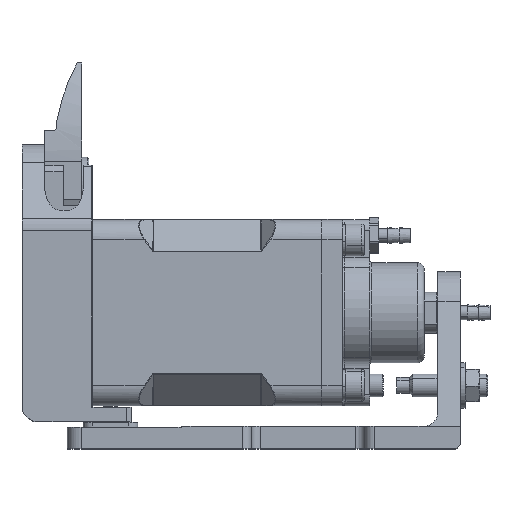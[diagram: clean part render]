
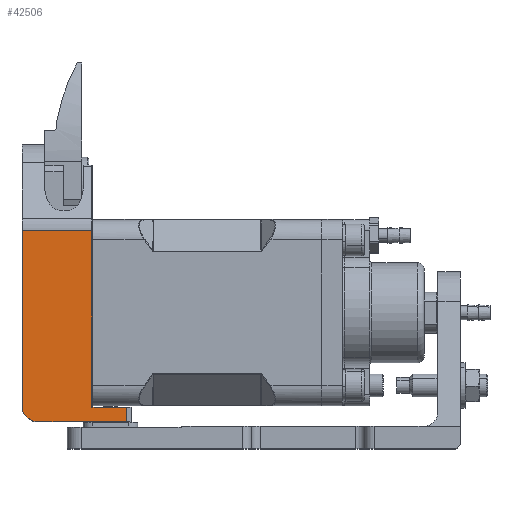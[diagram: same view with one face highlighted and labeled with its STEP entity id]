
A CAD part, top view. The second image highlights one B-rep face of the part: STEP entity #42506.
In plain terms, the highlighted planar face has unit normal (0, 0, 1).
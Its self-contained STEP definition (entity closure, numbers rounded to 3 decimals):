
#636 = VERTEX_POINT ( 'NONE', #21302 ) ;
#1635 = CARTESIAN_POINT ( 'NONE',  ( -28.087, -22.008, 67. ) ) ;
#3275 = DIRECTION ( 'NONE',  ( -1., 0., 0. ) ) ;
#5215 = VECTOR ( 'NONE', #30755, 1000. ) ;
#5781 = ORIENTED_EDGE ( 'NONE', *, *, #78166, .F. ) ;
#5801 = VECTOR ( 'NONE', #67287, 1000. ) ;
#11992 = ORIENTED_EDGE ( 'NONE', *, *, #42369, .F. ) ;
#12613 = CARTESIAN_POINT ( 'NONE',  ( -50.987, -19.338, 67. ) ) ;
#13222 = ORIENTED_EDGE ( 'NONE', *, *, #49479, .T. ) ;
#13633 = DIRECTION ( 'NONE',  ( 0., -1., 0. ) ) ;
#15068 = CARTESIAN_POINT ( 'NONE',  ( -46.087, 21.492, 67. ) ) ;
#16863 = LINE ( 'NONE', #86672, #33365 ) ;
#17996 = LINE ( 'NONE', #49249, #89505 ) ;
#21302 = CARTESIAN_POINT ( 'NONE',  ( -47.587, -22.008, 67. ) ) ;
#22099 = DIRECTION ( 'NONE',  ( 0., 1., 0. ) ) ;
#22417 = ORIENTED_EDGE ( 'NONE', *, *, #25164, .T. ) ;
#24399 = DIRECTION ( 'NONE',  ( 0., 1., 0. ) ) ;
#25164 = EDGE_CURVE ( 'NONE', #67824, #39865, #78195, .T. ) ;
#25169 = CARTESIAN_POINT ( 'NONE',  ( -28.087, 21.492, 67. ) ) ;
#25372 = CARTESIAN_POINT ( 'NONE',  ( -28.087, -18.808, 67. ) ) ;
#27188 = VERTEX_POINT ( 'NONE', #79484 ) ;
#28721 = DIRECTION ( 'NONE',  ( 0., 0., 1. ) ) ;
#28936 = PLANE ( 'NONE',  #75895 ) ;
#29849 = VERTEX_POINT ( 'NONE', #37930 ) ;
#30755 = DIRECTION ( 'NONE',  ( 1., 0., 0. ) ) ;
#33365 = VECTOR ( 'NONE', #65499, 1000. ) ;
#34333 = VERTEX_POINT ( 'NONE', #74454 ) ;
#36004 = EDGE_CURVE ( 'NONE', #29849, #34333, #89468, .T. ) ;
#36490 = EDGE_CURVE ( 'NONE', #34333, #27188, #76122, .T. ) ;
#37930 = CARTESIAN_POINT ( 'NONE',  ( -35.687, -18.808, 67. ) ) ;
#38421 = EDGE_CURVE ( 'NONE', #60526, #636, #53052, .T. ) ;
#39865 = VERTEX_POINT ( 'NONE', #25372 ) ;
#42369 = EDGE_CURVE ( 'NONE', #67824, #636, #16863, .T. ) ;
#42506 = ADVANCED_FACE ( 'NONE', ( #50938 ), #28936, .F. ) ;
#45305 = CARTESIAN_POINT ( 'NONE',  ( -46.087, 19.976, 67. ) ) ;
#45387 = ORIENTED_EDGE ( 'NONE', *, *, #38421, .T. ) ;
#49144 = EDGE_LOOP ( 'NONE', ( #13222, #45387, #11992, #22417, #5781, #84672, #89213 ) ) ;
#49249 = CARTESIAN_POINT ( 'NONE',  ( -50.987, 21.492, 67. ) ) ;
#49479 = EDGE_CURVE ( 'NONE', #27188, #60526, #17996, .T. ) ;
#50014 = VECTOR ( 'NONE', #24399, 1000. ) ;
#50938 = FACE_OUTER_BOUND ( 'NONE', #49144, .T. ) ;
#53052 = CIRCLE ( 'NONE', #56582, 3.5 ) ;
#56582 = AXIS2_PLACEMENT_3D ( 'NONE', #70693, #28721, #77752 ) ;
#57527 = VECTOR ( 'NONE', #3275, 1000. ) ;
#59050 = LINE ( 'NONE', #72744, #5215 ) ;
#60526 = VERTEX_POINT ( 'NONE', #12613 ) ;
#64162 = DIRECTION ( 'NONE',  ( 0., 0., -1. ) ) ;
#65499 = DIRECTION ( 'NONE',  ( -1., 0., 0. ) ) ;
#67287 = DIRECTION ( 'NONE',  ( 0., 1., 0. ) ) ;
#67824 = VERTEX_POINT ( 'NONE', #1635 ) ;
#70693 = CARTESIAN_POINT ( 'NONE',  ( -47.587, -18.508, 67. ) ) ;
#72744 = CARTESIAN_POINT ( 'NONE',  ( -27.087, -18.808, 67. ) ) ;
#73563 = CARTESIAN_POINT ( 'NONE',  ( -35.687, 19.976, 67. ) ) ;
#74454 = CARTESIAN_POINT ( 'NONE',  ( -35.687, 19.976, 67. ) ) ;
#75895 = AXIS2_PLACEMENT_3D ( 'NONE', #15068, #64162, #22099 ) ;
#76122 = LINE ( 'NONE', #45305, #57527 ) ;
#77752 = DIRECTION ( 'NONE',  ( 0., 1., 0. ) ) ;
#78166 = EDGE_CURVE ( 'NONE', #29849, #39865, #59050, .T. ) ;
#78195 = LINE ( 'NONE', #25169, #5801 ) ;
#79484 = CARTESIAN_POINT ( 'NONE',  ( -50.987, 19.976, 67. ) ) ;
#84672 = ORIENTED_EDGE ( 'NONE', *, *, #36004, .T. ) ;
#86672 = CARTESIAN_POINT ( 'NONE',  ( -27.087, -22.008, 67. ) ) ;
#89213 = ORIENTED_EDGE ( 'NONE', *, *, #36490, .T. ) ;
#89468 = LINE ( 'NONE', #73563, #50014 ) ;
#89505 = VECTOR ( 'NONE', #13633, 1000. ) ;
